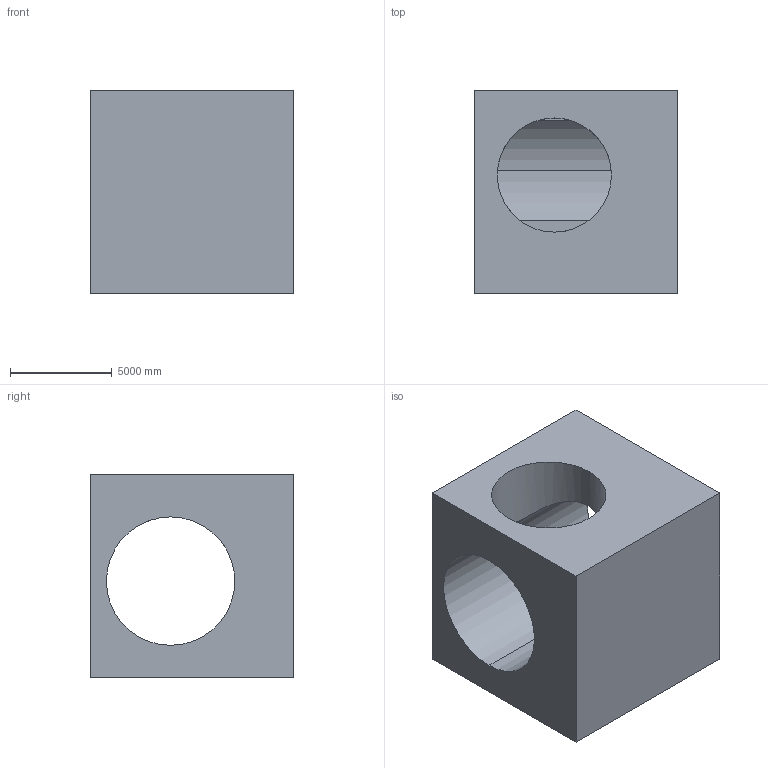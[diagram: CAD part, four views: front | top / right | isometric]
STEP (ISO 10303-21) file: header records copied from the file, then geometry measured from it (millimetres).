
FILE_DESCRIPTION (( 'STEP AP203' ), '1' );
FILE_NAME ('1041.STEP', '2022-08-18T12:31:44', ( 'user' ), ( '' ), 'SwSTEP 2.0', 'SolidWorks 2021', '' );
FILE_SCHEMA (( 'CONFIG_CONTROL_DESIGN' ));
Length unit declared in the file: centimetre
Products named in the file (1): 1041
Bounding box: 10000 x 10000 x 10000 mm (x, y, z)
Volume: 626104462969.7 mm3; surface area: 735107768.8 mm2
Topology: 1 solids, 1 shells, 12 faces, 33 edges, 22 vertices
Faces by surface type: plane 8, cylinder 4
Entity records: 723 total; most frequent: CARTESIAN_POINT 333, ORIENTED_EDGE 66, DIRECTION 61, EDGE_CURVE 33, VERTEX_POINT 22, AXIS2_PLACEMENT_3D 21, LINE 19, VECTOR 19
